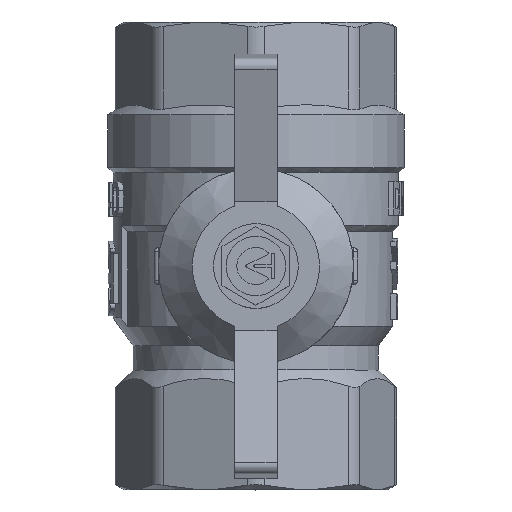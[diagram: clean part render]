
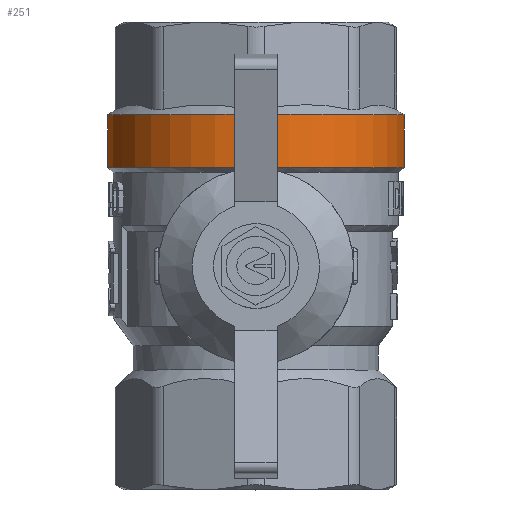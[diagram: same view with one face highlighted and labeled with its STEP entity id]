
A CAD part, top view. The second image highlights one B-rep face of the part: STEP entity #251.
In plain terms, the highlighted cylindrical face has radius 17.5 mm (diameter 35 mm), a full revolution.
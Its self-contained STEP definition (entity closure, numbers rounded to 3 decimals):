
#251=ADVANCED_FACE('',(#1826,#1828),#1830,.T.);
#1826=FACE_OUTER_BOUND('',#1827,.T.);
#1827=EDGE_LOOP('',(#3806));
#1828=FACE_BOUND('',#1829,.T.);
#1829=EDGE_LOOP('',(#3807,#3808));
#1830=CYLINDRICAL_SURFACE('',#1831,17.5);
#1831=AXIS2_PLACEMENT_3D('',#1832,#1833,#1834);
#1832=CARTESIAN_POINT('',(0.,39.4,0.));
#1833=DIRECTION('',(0.,-1.,0.));
#1834=DIRECTION('',(0.,0.,-1.));
#3806=ORIENTED_EDGE('',*,*,#5071,.F.);
#3807=ORIENTED_EDGE('',*,*,#4855,.F.);
#3808=ORIENTED_EDGE('',*,*,#4854,.F.);
#4854=EDGE_CURVE('',#5974,#5975,#5976,.T.);
#4855=EDGE_CURVE('',#5975,#5974,#5977,.T.);
#5071=EDGE_CURVE('',#6308,#6308,#6309,.T.);
#5974=VERTEX_POINT('',#9632);
#5975=VERTEX_POINT('',#9633);
#5976=CIRCLE('',#9634,17.5);
#5977=CIRCLE('',#9638,17.5);
#6308=VERTEX_POINT('',#11440);
#6309=CIRCLE('',#11441,17.5);
#9632=CARTESIAN_POINT('',(6.697,34.358,16.168));
#9633=CARTESIAN_POINT('',(0.,34.358,-17.5));
#9634=AXIS2_PLACEMENT_3D('',#9635,#9636,#9637);
#9635=CARTESIAN_POINT('',(0.,34.358,0.));
#9636=DIRECTION('',(0.,-1.,0.));
#9637=DIRECTION('',(0.383,0.,0.924));
#9638=AXIS2_PLACEMENT_3D('',#9639,#9640,#9641);
#9639=CARTESIAN_POINT('',(0.,34.358,0.));
#9640=DIRECTION('',(0.,-1.,0.));
#9641=DIRECTION('',(0.,0.,-1.));
#11440=CARTESIAN_POINT('',(6.697,40.6,16.168));
#11441=AXIS2_PLACEMENT_3D('',#11442,#11443,#11444);
#11442=CARTESIAN_POINT('',(0.,40.6,0.));
#11443=DIRECTION('',(0.,1.,0.));
#11444=DIRECTION('',(0.383,0.,0.924));
